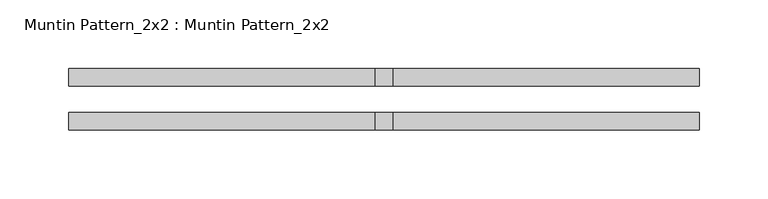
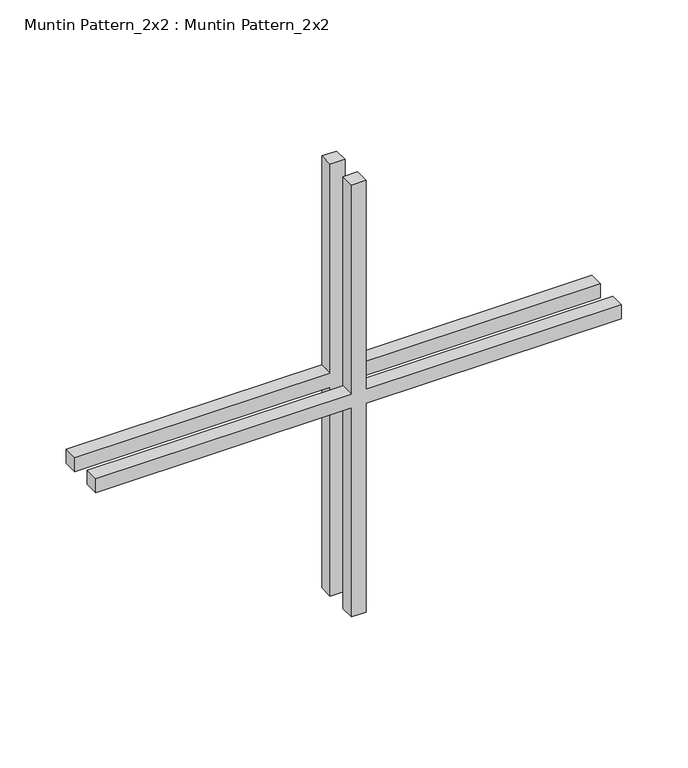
"""IFC4 building model written with IfcOpenShell, lengths in millimetres: proxy geometry, Muntin Pattern_2x2 : Muntin Pattern_2x2."""

from ifc_helpers import new_model, si_unit, frame, origin, place, context, project, spatial, polyline, outline, extrude, source, transform, mapped, element, save


def muntin_pattern_2x2_muntin_pattern_2x2_e32dc648(model_context):
    return source(origin(), model_context, "Body", "SweptSolid", [
        extrude(outline(polyline([(204.7875, -6.35), (204.7875, -228.6), (192.0875, -228.6), (192.0875, -6.35), (0.0, -6.35), (0.0, 6.35), (192.0875, 6.35), (192.0875, 228.6), (204.7875, 228.6), (204.7875, 6.35), (396.875, 6.35), (396.875, -6.35), (204.7875, -6.35)])), frame((0.0, 9.525, 0.0), z_axis=(0.0, 1.0, 0.0), x_axis=(0.0, 0.0, 1.0)), (0.0, 0.0, 1.0), 12.7),
        extrude(outline(polyline([(204.7875, -6.35), (204.7875, -228.6), (192.0875, -228.6), (192.0875, -6.35), (0.0, -6.35), (0.0, 6.35), (192.0875, 6.35), (192.0875, 228.6), (204.7875, 228.6), (204.7875, 6.35), (396.875, 6.35), (396.875, -6.35), (204.7875, -6.35)])), frame((0.0, -22.225, 0.0), z_axis=(0.0, 1.0, 0.0), x_axis=(0.0, 0.0, 1.0)), (0.0, 0.0, 1.0), 12.7),
    ])


if __name__ == "__main__":
    model = new_model("IFC4")
    model_context = context("Model", 3, world=origin())
    ifc_project = project(units=[si_unit("LENGTHUNIT", "METRE", prefix="MILLI")], contexts=[model_context])
    site = spatial("IfcSite", under=ifc_project)
    building = spatial("IfcBuilding", under=site)
    placement = place(None, origin())
    muntin_pattern_2x2_muntin_pattern_2x2_shape = muntin_pattern_2x2_muntin_pattern_2x2_e32dc648(model_context)
    element("IfcBuildingElementProxy", 1, Name="Muntin Pattern_2x2 : Muntin Pattern_2x2", ObjectType="Muntin Pattern_2x2 : Muntin Pattern_2x2", at=placement, inside=building, context=model_context, shape_type="MappedRepresentation", body=[
        mapped(muntin_pattern_2x2_muntin_pattern_2x2_shape, transform((0.0, 0.0, 0.0), x_axis=(1.0, 0.0, 0.0), y_axis=(0.0, 1.0, 0.0), z_axis=(0.0, 0.0, 1.0))),
    ])
    save(model, "model.ifc")
